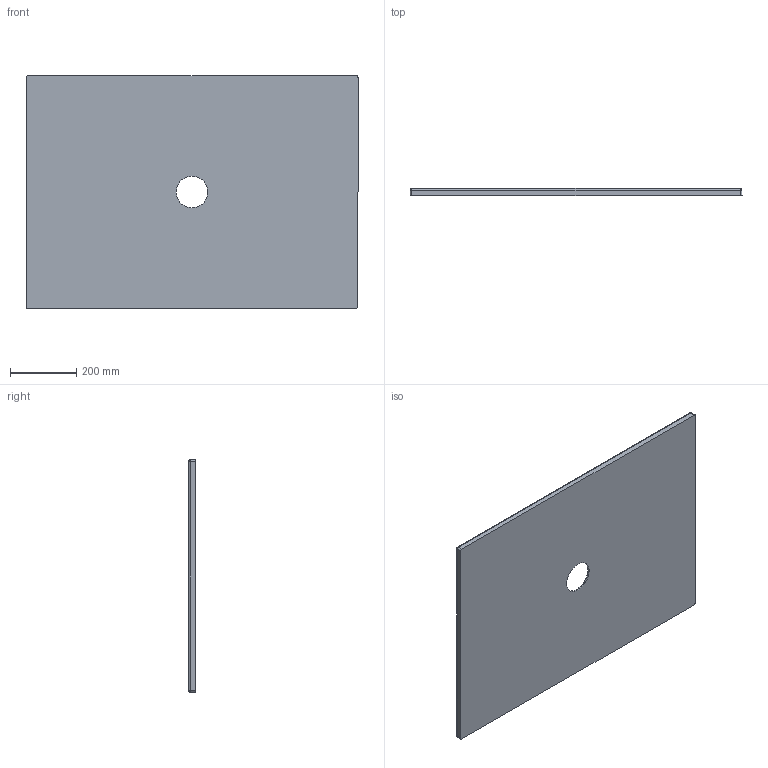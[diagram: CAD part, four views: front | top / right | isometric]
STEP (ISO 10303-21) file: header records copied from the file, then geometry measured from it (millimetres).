
FILE_DESCRIPTION (( 'STEP AP203' ), '1' );
FILE_NAME ('SDPD10007020.STEP', '2023-04-03T08:04:24', ( '' ), ( '' ), 'SwSTEP 2.0', 'SolidWorks 2023', '' );
FILE_SCHEMA (( 'CONFIG_CONTROL_DESIGN' ));
Length unit declared in the file: millimetre
Products named in the file (1): SDPD10007020
Bounding box: 1000 x 20 x 700 mm (x, y, z)
Volume: 11633418.7 mm3; surface area: 1443322.6 mm2
Topology: 1 solids, 1 shells, 26 faces, 62 edges, 40 vertices
Faces by surface type: cylinder 9, plane 8, sphere 4, bspline 2, torus 2, cone 1
Full cylindrical faces by diameter (mm): 95 x1
Entity records: 2545 total; most frequent: CARTESIAN_POINT 1929, DIRECTION 108, ORIENTED_EDGE 104, EDGE_CURVE 52, AXIS2_PLACEMENT_3D 44, EDGE_LOOP 36, VERTEX_POINT 36, FACE_OUTER_BOUND 31
